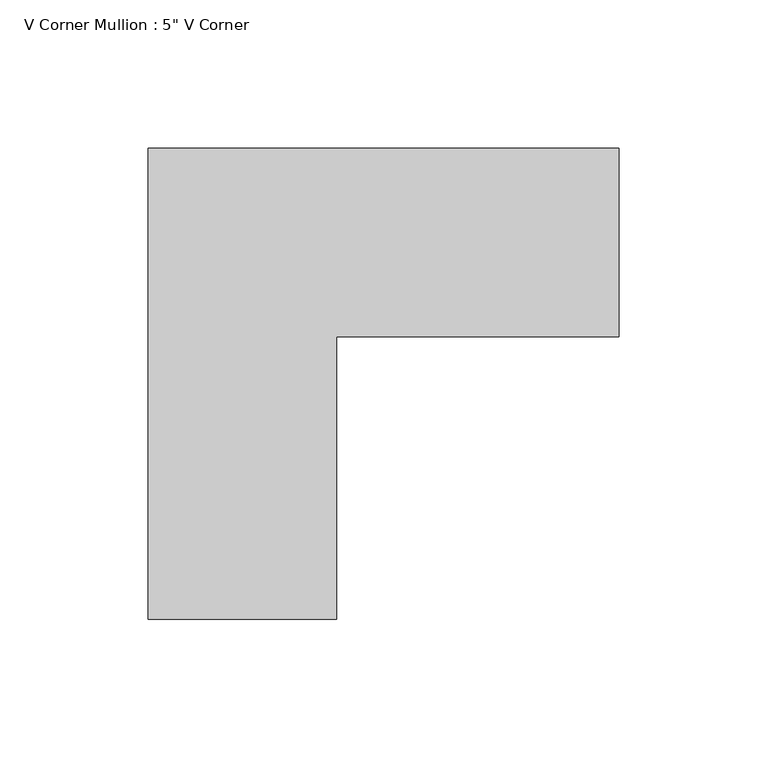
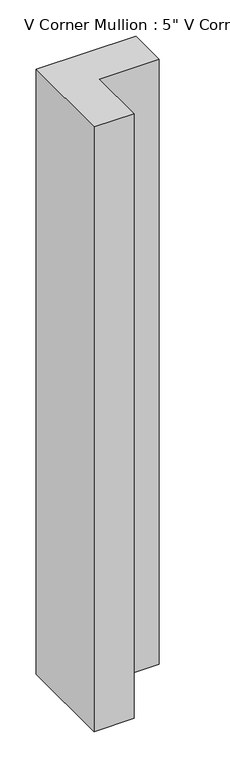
"""IFC4 building model written with IfcOpenShell, lengths in millimetres: member geometry."""

from ifc_helpers import new_model, si_unit, frame, origin, place, context, project, spatial, polyline, outline, extrude, source, transform, mapped, element, save


def member_69e02c7a(model_context):
    return source(origin(), model_context, "Body", "SweptSolid", [
        extrude(outline(polyline([(63.5, 31.75), (-31.75, 31.75), (-31.75, -63.5), (-95.25, -63.5), (-95.25, 95.25), (63.5, 95.25), (63.5, 31.75)])), frame((0.0, 0.0, -1016.0), z_axis=(0.0, 0.0, 1.0), x_axis=(1.0, 0.0, 0.0)), (0.0, 0.0, 1.0), 1016.0),
    ])


if __name__ == "__main__":
    model = new_model("IFC4")
    model_context = context("Model", 3, world=origin())
    ifc_project = project(units=[si_unit("LENGTHUNIT", "METRE", prefix="MILLI")], contexts=[model_context])
    site = spatial("IfcSite", under=ifc_project)
    building = spatial("IfcBuilding", under=site)
    placement = place(None, origin())
    member_shape = member_69e02c7a(model_context)
    element("IfcMember", 1, ObjectType="V Corner Mullion : 5\" V Corner", at=placement, inside=building, context=model_context, shape_type="MappedRepresentation", body=[
        mapped(member_shape, transform((0.0, 0.0, 0.0), x_axis=(1.0, 0.0, 0.0), y_axis=(0.0, 1.0, 0.0), z_axis=(0.0, 0.0, 1.0))),
    ])
    save(model, "model.ifc")
